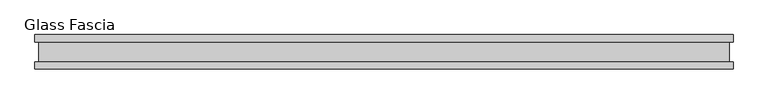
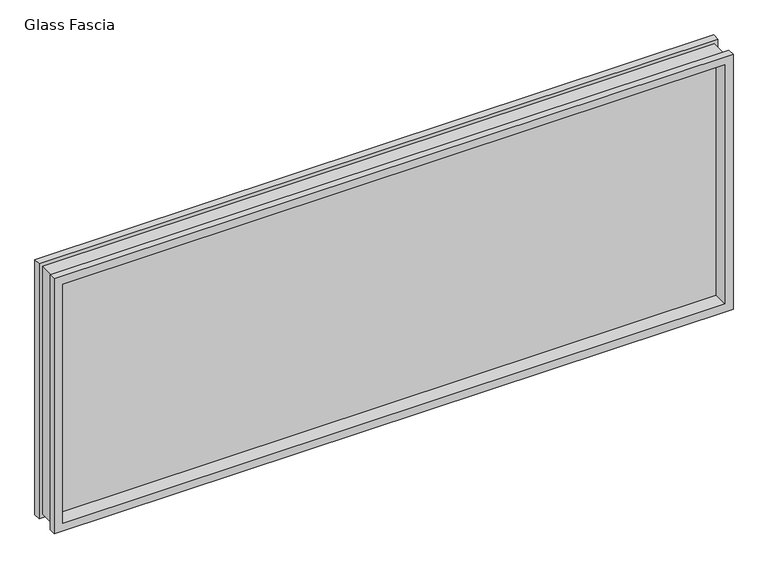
"""IFC4 building model written with IfcOpenShell, lengths in millimetres: proxy geometry, Panel-Fascia-Teknion-Altos-Glass : Glass Fascia."""

from ifc_helpers import new_model, si_unit, frame, origin, place, context, project, spatial, polyline, outline, extrude, faceted_brep, source, transform, mapped, element, save


def glass_fascia_e9c48712(model_context):
    return source(origin(), model_context, "Body", "SolidModel", [
        faceted_brep([(998.3995219, -5.0827449, 793.1305243), (998.3995219, 5.0827449, 793.1305243), (998.3995219, 5.0827449, 17.6374757), (998.3995219, -5.0827449, 17.6374757), (1012.8619976, -28.8801202, 807.593), (1012.8619976, -50.0558594, 807.593), (1012.8619976, -50.0558594, 3.175), (1012.8619976, -28.8801202, 3.175), (1002.0369977, 28.2698798, 796.7680001), (1002.0369977, -28.8801202, 796.7680001), (1002.0369977, -28.8801202, 13.9999999), (1002.0369977, 28.2698798, 13.9999999), (1012.8619976, 50.0558594, 807.593), (1012.8619976, 28.2698798, 807.593), (1012.8619976, 28.2698798, 3.175), (1012.8619976, 50.0558594, 3.175), (-998.3995219, 5.0827449, 17.6374757), (-998.3995219, -5.0827449, 17.6374757), (-1012.8619976, -50.0558594, 3.175), (-1012.8619976, -28.8801202, 3.175), (-1002.0369977, -28.8801202, 13.9999999), (-1002.0369977, 28.2698798, 13.9999999), (-1012.8619976, 28.2698798, 3.175), (-1012.8619976, 50.0558594, 3.175), (-998.3995219, 5.0827449, 793.1305243), (-998.3995219, -5.0827449, 793.1305243), (-1012.8619976, -50.0558594, 807.593), (-1012.8619976, -28.8801202, 807.593), (-1002.0369977, -28.8801202, 796.7680001), (-1002.0369977, 28.2698798, 796.7680001), (-1012.8619976, 28.2698798, 807.593), (-1012.8619976, 50.0558594, 807.593), (987.9093308, 50.0558594, 782.6403332), (-987.9093308, 50.0558594, 782.6403332), (-987.9093308, 50.0558594, 28.1276668), (987.9093308, 50.0558594, 28.1276668), (987.9093308, 5.0827449, 28.1276668), (-987.9093308, 5.0827449, 28.1276668), (-987.9093308, 5.0827449, 782.6403332), (987.9093308, 5.0827449, 782.6403332), (987.9093308, -5.0827449, 782.6403332), (-987.9093308, -5.0827449, 782.6403332), (-987.9093308, -5.0827449, 28.1276668), (987.9093308, -5.0827449, 28.1276668), (987.9093308, -50.0558594, 28.1276668), (-987.9093308, -50.0558594, 28.1276668), (-987.9093308, -50.0558594, 782.6403332), (987.9093308, -50.0558594, 782.6403332)], [[[0, 1, 2, 3]], [[4, 5, 6, 7]], [[8, 9, 10, 11]], [[12, 13, 14, 15]], [[3, 2, 16, 17]], [[7, 6, 18, 19]], [[11, 10, 20, 21]], [[15, 14, 22, 23]], [[17, 16, 24, 25]], [[19, 18, 26, 27]], [[21, 20, 28, 29]], [[23, 22, 30, 31]], [[15, 23, 31, 12], [32, 33, 34, 35]], [[1, 24, 16, 2], [36, 37, 38, 39]], [[25, 24, 1, 0]], [[3, 17, 25, 0], [40, 41, 42, 43]], [[5, 26, 18, 6], [44, 45, 46, 47]], [[27, 26, 5, 4]], [[7, 19, 27, 4], [9, 28, 20, 10]], [[29, 28, 9, 8]], [[13, 30, 22, 14], [11, 21, 29, 8]], [[31, 30, 13, 12]], [[39, 32, 35, 36]], [[47, 40, 43, 44]], [[36, 35, 34, 37]], [[44, 43, 42, 45]], [[37, 34, 33, 38]], [[45, 42, 41, 46]], [[38, 33, 32, 39]], [[46, 41, 40, 47]]]),
        extrude(outline(polyline([(998.3995219, 2.9765625), (998.3995219, -2.9765625), (-998.3995219, -2.9765625), (-998.3995219, 2.9765625), (998.3995219, 2.9765625)])), frame((0.0, 0.0, 17.6374757), z_axis=(0.0, 0.0, 1.0), x_axis=(1.0, 0.0, 0.0)), (0.0, 0.0, 1.0), 775.4930485),
    ])


if __name__ == "__main__":
    model = new_model("IFC4")
    model_context = context("Model", 3, world=origin())
    ifc_project = project(units=[si_unit("LENGTHUNIT", "METRE", prefix="MILLI")], contexts=[model_context])
    site = spatial("IfcSite", under=ifc_project)
    building = spatial("IfcBuilding", under=site)
    placement = place(None, origin())
    glass_fascia_shape = glass_fascia_e9c48712(model_context)
    element("IfcBuildingElementProxy", 1, Name="Panel-Fascia-Teknion-Altos-Glass : Glass Fascia", ObjectType="Panel-Fascia-Teknion-Altos-Glass : Glass Fascia", at=placement, inside=building, context=model_context, shape_type="MappedRepresentation", body=[
        mapped(glass_fascia_shape, transform((0.0, 0.0, 0.0), x_axis=(1.0, 0.0, 0.0), y_axis=(0.0, 1.0, 0.0), z_axis=(0.0, 0.0, 1.0))),
    ])
    save(model, "model.ifc")
